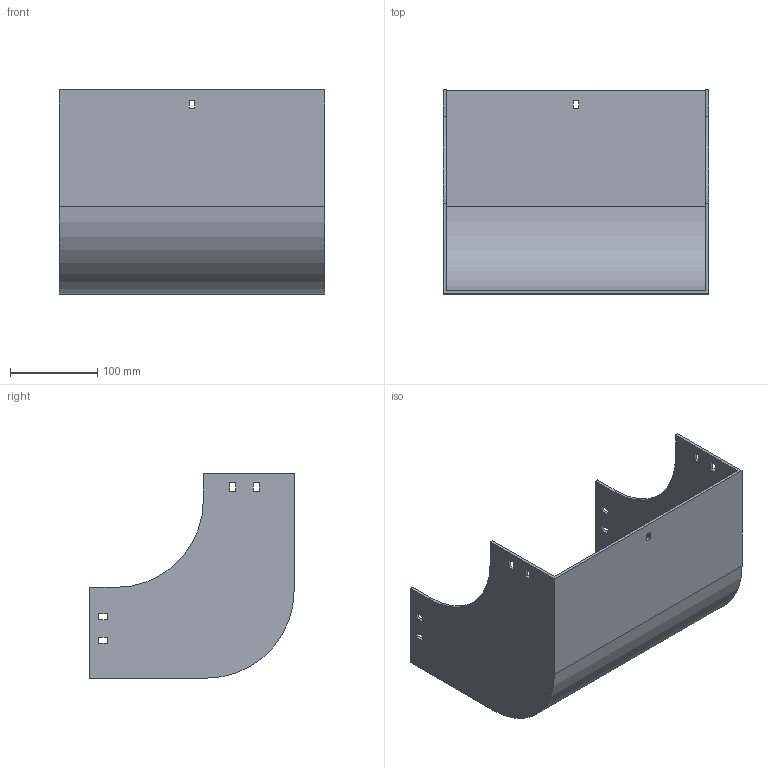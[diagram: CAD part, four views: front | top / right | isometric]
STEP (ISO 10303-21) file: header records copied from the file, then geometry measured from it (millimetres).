
FILE_DESCRIPTION (( 'STEP AP214' ), '1' );
FILE_NAME ('30F1D300.step', '2025-02-21T13:01:10', ( '' ), ( '' ), 'SwSTEP 2.0', 'SolidWorks 2023', '' );
FILE_SCHEMA (( 'AUTOMOTIVE_DESIGN' ));
Length unit declared in the file: millimetre
Products named in the file (1): 30F1D300
Bounding box: 304 x 234 x 234 mm (x, y, z)
Volume: 701635.3 mm3; surface area: 407177.3 mm2
Topology: 1 solids, 1 shells, 58 faces, 168 edges, 112 vertices
Faces by surface type: plane 54, cylinder 4
Entity records: 1943 total; most frequent: CARTESIAN_POINT 339, ORIENTED_EDGE 336, DIRECTION 294, EDGE_CURVE 168, LINE 160, VECTOR 160, VERTEX_POINT 112, EDGE_LOOP 78
